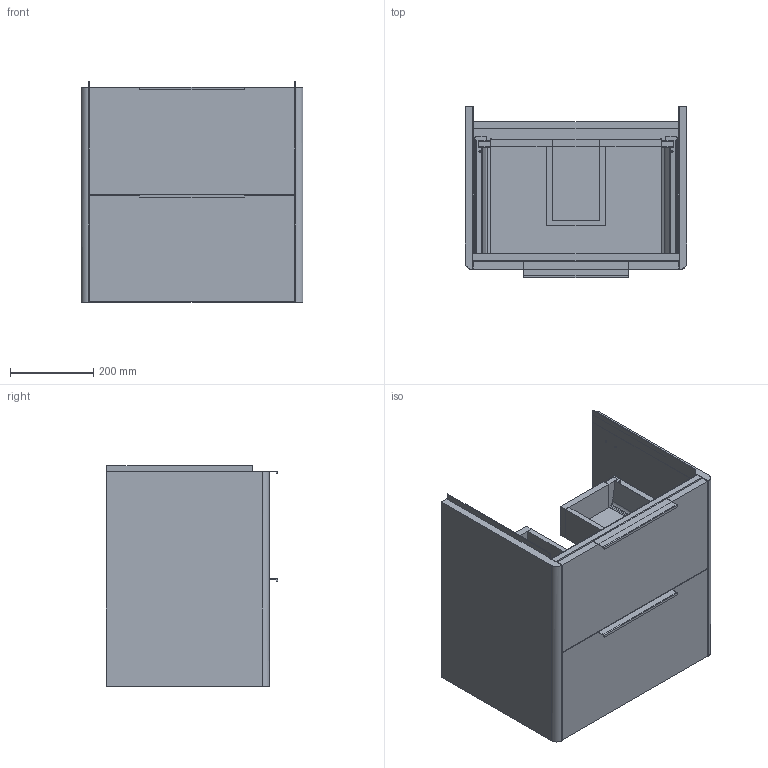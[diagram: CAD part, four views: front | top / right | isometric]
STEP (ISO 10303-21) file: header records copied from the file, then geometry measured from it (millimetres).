
FILE_DESCRIPTION(/* description */ (''),/* implementation_level */ '2;1');
FILE_NAME(/* name */ '3DA6F6~1',/* time_stamp */ '2018-05-07T13:19:43+02:00',/* author */ (''),/* organization */ (''),/* preprocessor_version */ 'ST-DEVELOPER v15',/* originating_system */ '',/* authorisation */ '');
FILE_SCHEMA (('AUTOMOTIVE_DESIGN'));
Length unit declared in the file: millimetre
Products named in the file (23): Document; 300-84_MIR1; 300-84_1_MIR1; 300-84_2_MIR1; 300-84_3_MIR1; 300-84; 300-84_1; 300-84_2; 300-84_3; maniglia inferiore; Maniglia superiore; Frontale cassetto inferiore; Retro_cassetto inferiore; Fascia rialzo; Retro cassetto superiore; Fondo cassetto inferiore; Fondo cassetto superiore; Fondo mobile; Fianco dx; Fianco sx; Catena inferiore; Frontale cassetto superiore; Catena_superiore
Assembly tree (24 placements, depth 3):
  Document
    300-84_MIR1  x2
      300-84_1_MIR1
      300-84_2_MIR1
      300-84_3_MIR1
    300-84  x2
      300-84_1
      300-84_2
      300-84_3
    maniglia inferiore
    Maniglia superiore
    Frontale cassetto inferiore
    Retro_cassetto inferiore
    Fascia rialzo
    Retro cassetto superiore
    Fondo cassetto inferiore
    Fondo cassetto superiore
    Fondo mobile
    Fianco dx
    Fianco sx
    Catena inferiore
    Frontale cassetto superiore
    Catena_superiore
Bounding box: 532.5 x 411.1 x 529 mm (x, y, z)
Volume: 23092319.9 mm3; surface area: 3446064 mm2
Topology: 28 solids, 28 shells, 1051 faces, 3125 edges, 2166 vertices
Faces by surface type: plane 772, bspline 279
Entity records: 19782 total; most frequent: CARTESIAN_POINT 7907, ORIENTED_EDGE 3454, EDGE_CURVE 1727, B_SPLINE_CURVE_WITH_KNOTS 1283, VERTEX_POINT 1198, EDGE_LOOP 689, ADVANCED_FACE 595, FACE_OUTER_BOUND 595
